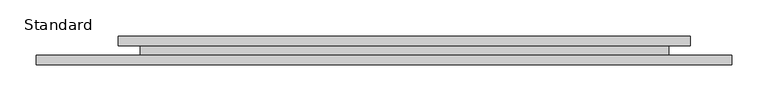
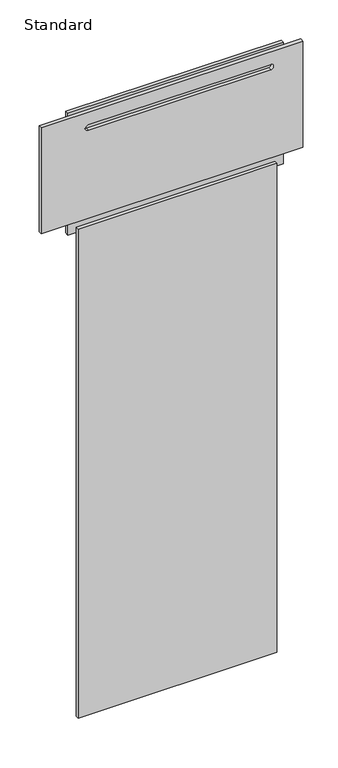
"""IFC4 building model written with IfcOpenShell, lengths in millimetres: furniture geometry, X_Partition-Compact Laminate-Duracube-Door : Standard."""

from ifc_helpers import new_model, si_unit, point, frame, frame_2d, origin, place, context, project, spatial, polyline, circle_curve, trimmed, segment, composite_curve, outline, extrude, source, transform, mapped, element, save


def standard_598e1934(model_context):
    return source(origin(), model_context, "Body", "SweptSolid", [
        extrude(outline(polyline([(2374.0, 493.7003264), (2374.0, -460.2996736), (1965.0, -460.2996736), (1965.0, 493.7003264), (2374.0, 493.7003264)]), holes=[composite_curve([segment(polyline([(2324.0, -287.7996736), (2324.0, 377.2003264)]), True, "CONTINUOUS"), segment(trimmed(circle_curve(frame_2d((2314.0, 377.2003264)), 10.0), [point((2324.0, 377.2003264))], [point((2304.0, 377.2003264))], True, "CARTESIAN"), True, "CONTINUOUS"), segment(polyline([(2304.0, 377.2003264), (2304.0, -287.7996736)]), True, "CONTINUOUS"), segment(trimmed(circle_curve(frame_2d((2314.0, -287.7996736)), 10.0), [point((2304.0, -287.7996736))], [point((2324.0, -287.7996736))], True, "CARTESIAN"), True, "CONTINUOUS")], self_intersect=False)]), frame((0.0, -26.0, 0.0), z_axis=(0.0, 1.0, 0.0), x_axis=(0.0, 0.0, 1.0)), (0.0, 0.0, 1.0), 13.0),
        extrude(outline(polyline([(437.2003264, 13.0), (437.2003264, 0.0), (-347.7996736, 0.0), (-347.7996736, 13.0), (437.2003264, 13.0)])), frame((0.0, 0.0, 1905.0), z_axis=(0.0, 0.0, 1.0), x_axis=(1.0, 0.0, 0.0)), (0.0, 0.0, 1.0), 469.0),
        extrude(outline(polyline([(407.2003264, 0.0), (407.2003264, -13.0), (-317.7996736, -13.0), (-317.7996736, 0.0), (407.2003264, 0.0)])), frame((0.0, 0.0, 40.0), z_axis=(0.0, 0.0, 1.0), x_axis=(1.0, 0.0, 0.0)), (0.0, 0.0, 1.0), 1885.0),
    ])


if __name__ == "__main__":
    model = new_model("IFC4")
    model_context = context("Model", 3, world=origin())
    ifc_project = project(units=[si_unit("LENGTHUNIT", "METRE", prefix="MILLI")], contexts=[model_context])
    site = spatial("IfcSite", under=ifc_project)
    building = spatial("IfcBuilding", under=site)
    placement = place(None, origin())
    standard_shape = standard_598e1934(model_context)
    element("IfcFurniture", 1, ObjectType="X_Partition-Compact Laminate-Duracube-Door : Standard", at=placement, inside=building, context=model_context, shape_type="MappedRepresentation", body=[
        mapped(standard_shape, transform((0.0, 0.0, 0.0), x_axis=(1.0, 0.0, 0.0), y_axis=(0.0, 1.0, 0.0), z_axis=(0.0, 0.0, 1.0))),
    ])
    save(model, "model.ifc")
